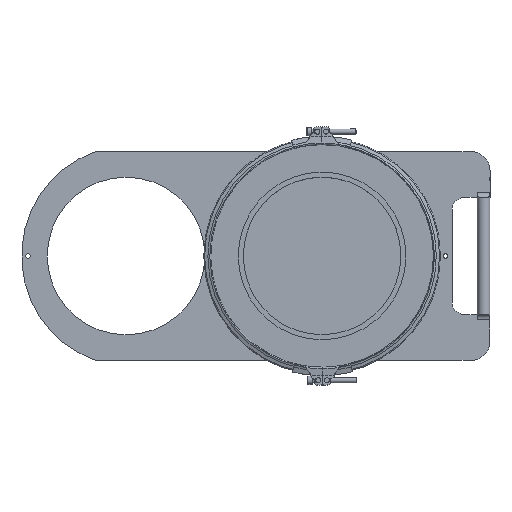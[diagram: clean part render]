
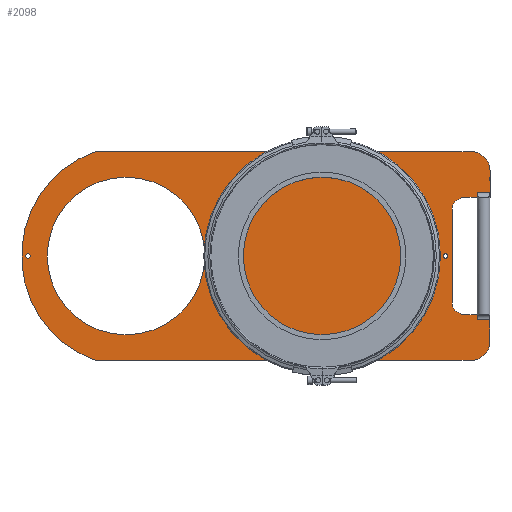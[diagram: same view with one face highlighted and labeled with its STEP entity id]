
A CAD part, top view. The second image highlights one B-rep face of the part: STEP entity #2098.
In plain terms, the highlighted planar face has unit normal (0, 0, 1) as drawn and (0, 0, -1) by its records, which use the part's own axes.
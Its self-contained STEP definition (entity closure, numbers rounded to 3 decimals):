
#1034=CARTESIAN_POINT('',(-726.5,165.,0.0));
#1035=VERTEX_POINT('',#1034);
#1036=CARTESIAN_POINT('',(-730.,165.,0.0));
#1037=DIRECTION('',(0.0,0.0,1.0));
#1038=DIRECTION('',(1.0,0.0,0.0));
#1039=AXIS2_PLACEMENT_3D('',#1036,#1037,#1038);
#1040=CIRCLE('',#1039,3.5);
#1041=EDGE_CURVE('',#1035,#1035,#1040,.T.);
#1083=CARTESIAN_POINT('',(-66.5,165.,0.0));
#1084=VERTEX_POINT('',#1083);
#1085=CARTESIAN_POINT('',(-70.,165.,0.0));
#1086=DIRECTION('',(0.0,0.0,1.0));
#1087=DIRECTION('',(1.0,0.0,0.0));
#1088=AXIS2_PLACEMENT_3D('',#1085,#1086,#1087);
#1089=CIRCLE('',#1088,3.5);
#1090=EDGE_CURVE('',#1084,#1084,#1089,.T.);
#1100=CARTESIAN_POINT('',(-0.113,64.5,0.0));
#1101=VERTEX_POINT('',#1100);
#1121=CARTESIAN_POINT('',(-19.887,64.5,0.0));
#1122=VERTEX_POINT('',#1121);
#1123=CARTESIAN_POINT('',(-0.113,64.5,0.0));
#1124=DIRECTION('',(-1.0,0.0,0.0));
#1125=VECTOR('',#1124,19.774);
#1126=LINE('',#1123,#1125);
#1127=EDGE_CURVE('',#1101,#1122,#1126,.T.);
#1178=CARTESIAN_POINT('',(-19.887,265.5,0.0));
#1179=VERTEX_POINT('',#1178);
#1199=CARTESIAN_POINT('',(-0.113,265.5,0.0));
#1200=VERTEX_POINT('',#1199);
#1201=CARTESIAN_POINT('',(-19.887,265.5,0.0));
#1202=DIRECTION('',(1.0,0.0,0.0));
#1203=VECTOR('',#1202,19.774);
#1204=LINE('',#1201,#1203);
#1205=EDGE_CURVE('',#1179,#1200,#1204,.T.);
#1584=CARTESIAN_POINT('',(-0.113,72.5,0.0));
#1585=VERTEX_POINT('',#1584);
#1595=CARTESIAN_POINT('',(-0.113,64.5,0.0));
#1596=DIRECTION('',(0.0,1.0,0.0));
#1597=VECTOR('',#1596,8.);
#1598=LINE('',#1595,#1597);
#1599=EDGE_CURVE('',#1101,#1585,#1598,.T.);
#1604=CARTESIAN_POINT('',(-19.887,72.5,0.0));
#1605=VERTEX_POINT('',#1604);
#1606=CARTESIAN_POINT('',(-19.887,72.5,0.0));
#1607=DIRECTION('',(0.0,-1.0,0.0));
#1608=VECTOR('',#1607,8.);
#1609=LINE('',#1606,#1608);
#1610=EDGE_CURVE('',#1605,#1122,#1609,.T.);
#1635=CARTESIAN_POINT('',(-0.113,257.5,0.0));
#1636=VERTEX_POINT('',#1635);
#1656=CARTESIAN_POINT('',(-19.887,257.5,0.0));
#1657=VERTEX_POINT('',#1656);
#1665=CARTESIAN_POINT('',(-19.887,265.5,0.0));
#1666=DIRECTION('',(0.0,-1.0,0.0));
#1667=VECTOR('',#1666,8.0);
#1668=LINE('',#1665,#1667);
#1669=EDGE_CURVE('',#1179,#1657,#1668,.T.);
#1674=CARTESIAN_POINT('',(-0.113,257.5,0.0));
#1675=DIRECTION('',(0.0,1.0,0.0));
#1676=VECTOR('',#1675,8.0);
#1677=LINE('',#1674,#1676);
#1678=EDGE_CURVE('',#1636,#1200,#1677,.T.);
#1705=CARTESIAN_POINT('',(0.,257.5,0.0));
#1706=VERTEX_POINT('',#1705);
#1707=CARTESIAN_POINT('',(0.,257.5,0.0));
#1708=DIRECTION('',(-1.0,0.0,0.0));
#1709=VECTOR('',#1708,0.113);
#1710=LINE('',#1707,#1709);
#1711=EDGE_CURVE('',#1706,#1636,#1710,.T.);
#1729=CARTESIAN_POINT('',(-40.,257.5,0.0));
#1730=VERTEX_POINT('',#1729);
#1737=CARTESIAN_POINT('',(-19.887,257.5,0.0));
#1738=DIRECTION('',(-1.0,0.0,0.0));
#1739=VECTOR('',#1738,20.113);
#1740=LINE('',#1737,#1739);
#1741=EDGE_CURVE('',#1657,#1730,#1740,.T.);
#1752=CARTESIAN_POINT('',(0.,72.5,0.0));
#1753=VERTEX_POINT('',#1752);
#1760=CARTESIAN_POINT('',(-0.113,72.5,0.0));
#1761=DIRECTION('',(1.0,0.0,0.0));
#1762=VECTOR('',#1761,0.113);
#1763=LINE('',#1760,#1762);
#1764=EDGE_CURVE('',#1585,#1753,#1763,.T.);
#1791=CARTESIAN_POINT('',(-40.,72.5,0.0));
#1792=VERTEX_POINT('',#1791);
#1793=CARTESIAN_POINT('',(-40.,72.5,0.0));
#1794=DIRECTION('',(1.0,0.0,0.0));
#1795=VECTOR('',#1794,20.113);
#1796=LINE('',#1793,#1795);
#1797=EDGE_CURVE('',#1792,#1605,#1796,.T.);
#1817=CARTESIAN_POINT('',(-450.5,165.0,0.0));
#1818=VERTEX_POINT('',#1817);
#1819=CARTESIAN_POINT('',(-575.,165.0,0.0));
#1820=DIRECTION('',(0.0,0.0,1.0));
#1821=DIRECTION('',(-1.0,0.0,0.0));
#1822=AXIS2_PLACEMENT_3D('',#1819,#1820,#1821);
#1823=CIRCLE('',#1822,124.5);
#1824=EDGE_CURVE('',#1818,#1818,#1823,.T.);
#1835=CARTESIAN_POINT('',(0.,300.0,0.0));
#1836=VERTEX_POINT('',#1835);
#1843=CARTESIAN_POINT('',(-30.,330.0,0.0));
#1844=VERTEX_POINT('',#1843);
#1845=CARTESIAN_POINT('',(-30.,300.0,0.0));
#1846=DIRECTION('',(0.0,0.0,-1.0));
#1847=DIRECTION('',(-1.0,0.0,0.0));
#1848=AXIS2_PLACEMENT_3D('',#1845,#1846,#1847);
#1849=CIRCLE('',#1848,30.0);
#1850=EDGE_CURVE('',#1844,#1836,#1849,.T.);
#1869=CARTESIAN_POINT('',(0.,300.0,0.0));
#1870=DIRECTION('',(0.0,-1.0,0.0));
#1871=VECTOR('',#1870,42.5);
#1872=LINE('',#1869,#1871);
#1873=EDGE_CURVE('',#1836,#1706,#1872,.T.);
#1885=CARTESIAN_POINT('',(-60.0,237.5,0.0));
#1886=VERTEX_POINT('',#1885);
#1893=CARTESIAN_POINT('',(-40.,237.5,0.0));
#1894=DIRECTION('',(0.0,0.0,1.0));
#1895=DIRECTION('',(0.0,1.0,0.0));
#1896=AXIS2_PLACEMENT_3D('',#1893,#1894,#1895);
#1897=CIRCLE('',#1896,20.0);
#1898=EDGE_CURVE('',#1730,#1886,#1897,.T.);
#1910=CARTESIAN_POINT('',(-60.,92.5,0.0));
#1911=VERTEX_POINT('',#1910);
#1918=CARTESIAN_POINT('',(-60.0,237.5,0.0));
#1919=DIRECTION('',(0.0,-1.0,0.0));
#1920=VECTOR('',#1919,145.);
#1921=LINE('',#1918,#1920);
#1922=EDGE_CURVE('',#1886,#1911,#1921,.T.);
#1935=CARTESIAN_POINT('',(-40.,92.5,0.0));
#1936=DIRECTION('',(0.0,0.0,1.0));
#1937=DIRECTION('',(-1.0,0.0,0.0));
#1938=AXIS2_PLACEMENT_3D('',#1935,#1936,#1937);
#1939=CIRCLE('',#1938,20.0);
#1940=EDGE_CURVE('',#1911,#1792,#1939,.T.);
#1952=CARTESIAN_POINT('',(0.,30.,0.0));
#1953=VERTEX_POINT('',#1952);
#1960=CARTESIAN_POINT('',(0.,72.5,0.0));
#1961=DIRECTION('',(0.0,-1.0,0.0));
#1962=VECTOR('',#1961,42.5);
#1963=LINE('',#1960,#1962);
#1964=EDGE_CURVE('',#1753,#1953,#1963,.T.);
#1977=CARTESIAN_POINT('',(-30.,0.0,0.0));
#1978=VERTEX_POINT('',#1977);
#1985=CARTESIAN_POINT('',(-30.,30.0,0.0));
#1986=DIRECTION('',(0.0,0.0,-1.0));
#1987=DIRECTION('',(0.0,1.0,0.0));
#1988=AXIS2_PLACEMENT_3D('',#1985,#1986,#1987);
#1989=CIRCLE('',#1988,30.0);
#1990=EDGE_CURVE('',#1953,#1978,#1989,.T.);
#2002=CARTESIAN_POINT('',(-623.31,0.,0.0));
#2003=VERTEX_POINT('',#2002);
#2010=CARTESIAN_POINT('',(-30.,0.0,0.0));
#2011=DIRECTION('',(-1.0,0.0,0.0));
#2012=VECTOR('',#2011,593.31);
#2013=LINE('',#2010,#2012);
#2014=EDGE_CURVE('',#1978,#2003,#2013,.T.);
#2026=CARTESIAN_POINT('',(-623.31,330.0,0.0));
#2027=VERTEX_POINT('',#2026);
#2034=CARTESIAN_POINT('',(-565.,165.,0.0));
#2035=DIRECTION('',(0.0,0.0,-1.0));
#2036=DIRECTION('',(0.333,-0.943,0.0));
#2037=AXIS2_PLACEMENT_3D('',#2034,#2035,#2036);
#2038=CIRCLE('',#2037,175.0);
#2039=EDGE_CURVE('',#2003,#2027,#2038,.T.);
#2052=CARTESIAN_POINT('',(-623.31,330.,0.0));
#2053=DIRECTION('',(1.0,0.0,0.0));
#2054=VECTOR('',#2053,593.31);
#2055=LINE('',#2052,#2054);
#2056=EDGE_CURVE('',#2027,#1844,#2055,.T.);
#2062=CARTESIAN_POINT('',(-335.916,165.0,0.0));
#2063=DIRECTION('',(0.0,0.0,1.0));
#2064=DIRECTION('',(1.0,0.0,0.0));
#2065=AXIS2_PLACEMENT_3D('',#2062,#2063,#2064);
#2066=PLANE('',#2065);
#2067=ORIENTED_EDGE('',*,*,#1599,.T.);
#2068=ORIENTED_EDGE('',*,*,#1764,.T.);
#2069=ORIENTED_EDGE('',*,*,#1964,.T.);
#2070=ORIENTED_EDGE('',*,*,#1990,.T.);
#2071=ORIENTED_EDGE('',*,*,#2014,.T.);
#2072=ORIENTED_EDGE('',*,*,#2039,.T.);
#2073=ORIENTED_EDGE('',*,*,#2056,.T.);
#2074=ORIENTED_EDGE('',*,*,#1850,.T.);
#2075=ORIENTED_EDGE('',*,*,#1873,.T.);
#2076=ORIENTED_EDGE('',*,*,#1711,.T.);
#2077=ORIENTED_EDGE('',*,*,#1678,.T.);
#2078=ORIENTED_EDGE('',*,*,#1205,.F.);
#2079=ORIENTED_EDGE('',*,*,#1669,.T.);
#2080=ORIENTED_EDGE('',*,*,#1741,.T.);
#2081=ORIENTED_EDGE('',*,*,#1898,.T.);
#2082=ORIENTED_EDGE('',*,*,#1922,.T.);
#2083=ORIENTED_EDGE('',*,*,#1940,.T.);
#2084=ORIENTED_EDGE('',*,*,#1797,.T.);
#2085=ORIENTED_EDGE('',*,*,#1610,.T.);
#2086=ORIENTED_EDGE('',*,*,#1127,.F.);
#2087=EDGE_LOOP('',(#2067,#2068,#2069,#2070,#2071,#2072,#2073,#2074,#2075,#2076,#2077,#2078,#2079,#2080,#2081,#2082,#2083,#2084,#2085,#2086));
#2088=FACE_OUTER_BOUND('',#2087,.T.);
#2089=ORIENTED_EDGE('',*,*,#1041,.T.);
#2090=EDGE_LOOP('',(#2089));
#2091=FACE_BOUND('',#2090,.T.);
#2092=ORIENTED_EDGE('',*,*,#1090,.T.);
#2093=EDGE_LOOP('',(#2092));
#2094=FACE_BOUND('',#2093,.T.);
#2095=ORIENTED_EDGE('',*,*,#1824,.T.);
#2096=EDGE_LOOP('',(#2095));
#2097=FACE_BOUND('',#2096,.T.);
#2098=ADVANCED_FACE('',(#2088,#2091,#2094,#2097),#2066,.F.);
